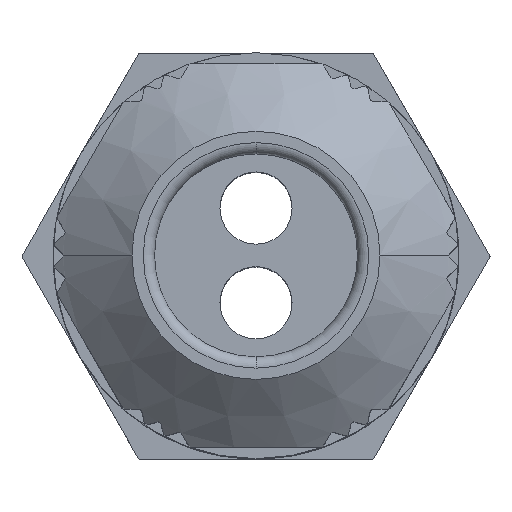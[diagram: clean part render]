
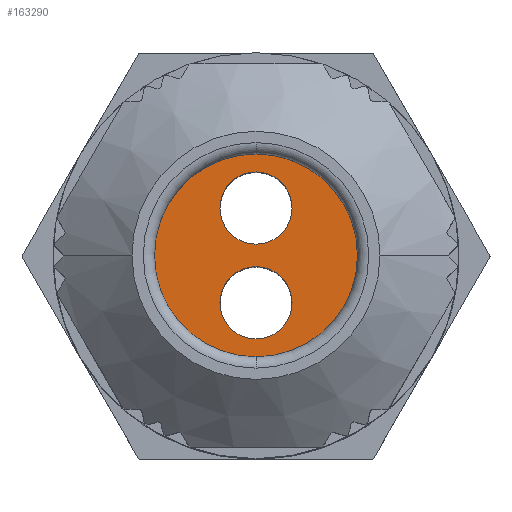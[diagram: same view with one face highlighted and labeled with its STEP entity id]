
A CAD part, top view. The second image highlights one B-rep face of the part: STEP entity #163290.
In plain terms, the highlighted planar face has unit normal (0, 0, 1).
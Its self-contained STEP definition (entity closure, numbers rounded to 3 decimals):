
#161930=CARTESIAN_POINT('',(141.234,74.945,20.3));
#161940=VERTEX_POINT('',#161930);
#162030=CARTESIAN_POINT('',(132.234,74.945,
20.3));
#162040=VERTEX_POINT('',#162030);
#162070=CARTESIAN_POINT('',(136.734,74.945,
20.3));
#162080=DIRECTION('',(0.,0.,1.));
#162090=DIRECTION('',(1.,0.,0.));
#162100=AXIS2_PLACEMENT_3D('',#162070,#162080,#162090);
#162110=CIRCLE('',#162100,4.5);
#162120=EDGE_CURVE('',#162040,#161940,#162110,.T.);
#162890=CARTESIAN_POINT('',(130.634,68.945,
20.3));
#162900=DIRECTION('',(0.,-0.,-1.));
#162910=DIRECTION('',(1.,0.,0.));
#162920=AXIS2_PLACEMENT_3D('',#162890,#162900,#162910);
#162930=PLANE('',#162920);
#162940=EDGE_CURVE('',#161940,#162040,#162110,.T.);
#162950=ORIENTED_EDGE('',*,*,#162940,.T.);
#162960=ORIENTED_EDGE('',*,*,#162120,.T.);
#162970=EDGE_LOOP('',(#162960,#162950));
#162980=FACE_OUTER_BOUND('',#162970,.T.);
#162990=CARTESIAN_POINT('',(138.834,74.945,
20.3));
#163000=DIRECTION('',(0.,0.,1.));
#163010=DIRECTION('',(0.,-1.,0.));
#163020=AXIS2_PLACEMENT_3D('',#162990,#163000,#163010);
#163030=CIRCLE('',#163020,1.6);
#163040=CARTESIAN_POINT('',(138.834,73.345,
20.3));
#163050=VERTEX_POINT('',#163040);
#163060=CARTESIAN_POINT('',(138.834,76.545,
20.3));
#163070=VERTEX_POINT('',#163060);
#163080=EDGE_CURVE('',#163050,#163070,#163030,.T.);
#163090=ORIENTED_EDGE('',*,*,#163080,.F.);
#163100=EDGE_CURVE('',#163070,#163050,#163030,.T.);
#163110=ORIENTED_EDGE('',*,*,#163100,.F.);
#163120=EDGE_LOOP('',(#163110,#163090));
#163130=FACE_BOUND('',#163120,.T.);
#163140=CARTESIAN_POINT('',(134.634,74.945,
20.3));
#163150=DIRECTION('',(0.,0.,1.));
#163160=DIRECTION('',(0.,1.,0.));
#163170=AXIS2_PLACEMENT_3D('',#163140,#163150,#163160);
#163180=CIRCLE('',#163170,1.6);
#163190=CARTESIAN_POINT('',(134.634,76.545,
20.3));
#163200=VERTEX_POINT('',#163190);
#163210=CARTESIAN_POINT('',(134.634,73.345,
20.3));
#163220=VERTEX_POINT('',#163210);
#163230=EDGE_CURVE('',#163200,#163220,#163180,.T.);
#163240=ORIENTED_EDGE('',*,*,#163230,.F.);
#163250=EDGE_CURVE('',#163220,#163200,#163180,.T.);
#163260=ORIENTED_EDGE('',*,*,#163250,.F.);
#163270=EDGE_LOOP('',(#163260,#163240));
#163280=FACE_BOUND('',#163270,.T.);
#163290=ADVANCED_FACE('',(#162980,#163130,#163280),#162930,.F.);
